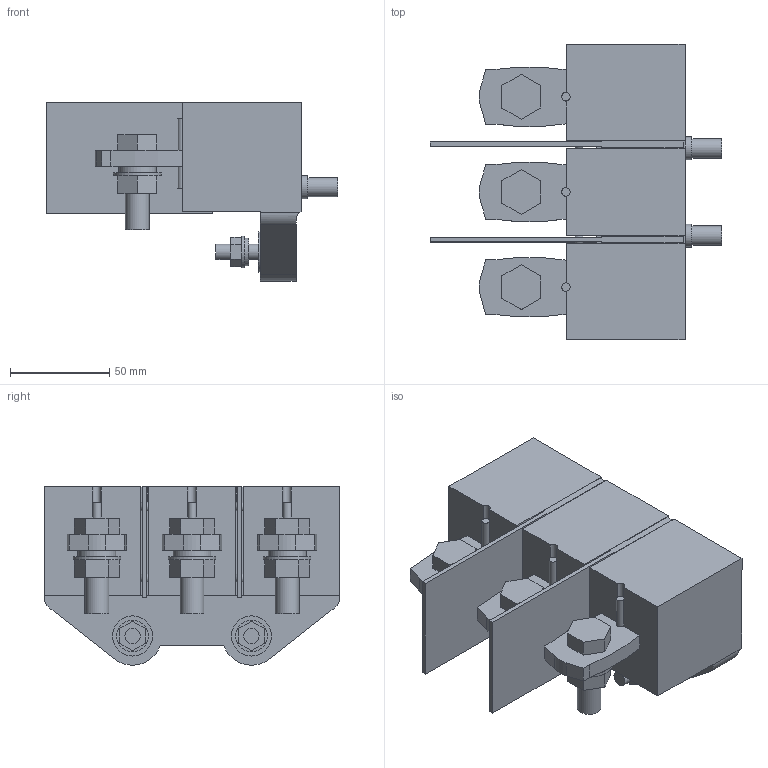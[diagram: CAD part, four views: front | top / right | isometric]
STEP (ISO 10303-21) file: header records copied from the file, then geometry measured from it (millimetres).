
FILE_DESCRIPTION(/* description */ (''),/* implementation_level */ '2;1');
FILE_NAME(/* name */ '400插入式3P后分.stp',/* time_stamp */ '2018-06-13T14:07:58+08:00',/* author */ (''),/* organization */ (''),/* preprocessor_version */ 'ST-DEVELOPER v16',/* originating_system */ 'SIEMENS PLM Software NX 10.0',/* authorisation */ '');
FILE_SCHEMA (('AUTOMOTIVE_DESIGN { 1 0 10303 214 3 1 1 1 }'));
Length unit declared in the file: millimetre
Products named in the file (1): boj26D43AE58wmb
Bounding box: 147 x 149 x 89.97 mm (x, y, z)
Volume: 631991.2 mm3; surface area: 100856.1 mm2
Topology: 5 solids, 5 shells, 274 faces, 662 edges, 444 vertices
Faces by surface type: plane 214, cylinder 52, cone 8
Full cylindrical faces by diameter (mm): 4 x2, 7.7 x4, 8.5 x2, 9.8 x2, 11.6 x2, 12 x3, 14 x2, 16 x2, 19 x3, 20 x3, 20.3 x2, 24 x3
Entity records: 7709 total; most frequent: CARTESIAN_POINT 1316, DIRECTION 1284, ORIENTED_EDGE 1220, EDGE_CURVE 610, LINE 488, VECTOR 488, VERTEX_POINT 430, AXIS2_PLACEMENT_3D 398
